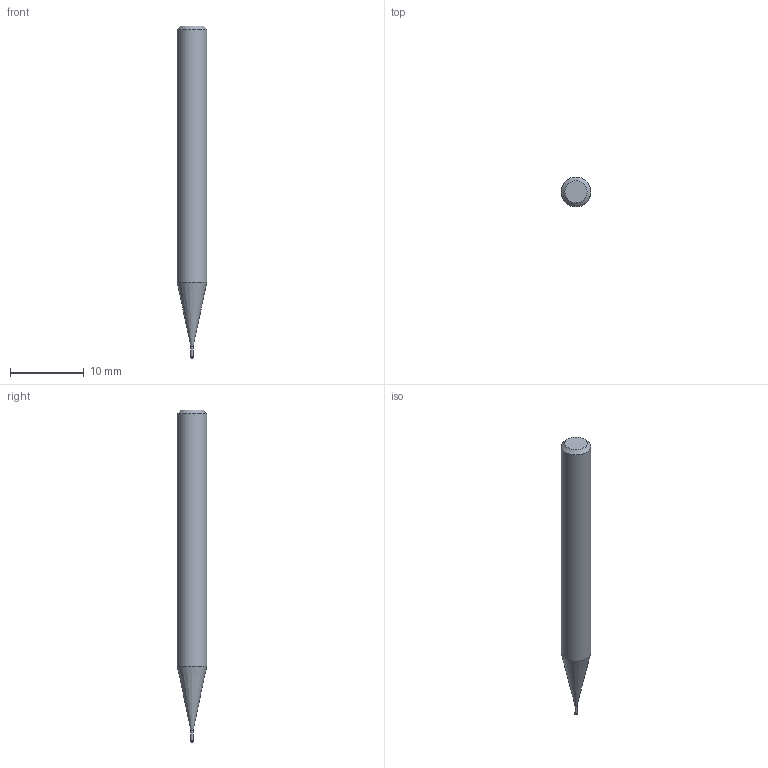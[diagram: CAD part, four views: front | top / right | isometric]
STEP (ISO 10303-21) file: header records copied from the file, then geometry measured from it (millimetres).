
FILE_DESCRIPTION((''),'2;1');
FILE_NAME('C:\Users\nsx150\AppData\Local\Temp\Mastercam 2021\3SYKECWX22\TEMP.step','2021-04-22T09:36:15',(''),(''),'STEP Write','Mastercam 2021 ... CNC Software, Inc.','');
FILE_SCHEMA(('AUTOMOTIVE_DESIGN'));
Length unit declared in the file: millimetre
Products named in the file (1): None
Bounding box: 4 x 4 x 45 mm (x, y, z)
Volume: 474.7 mm3; surface area: 506.9 mm2
Topology: 2 solids, 2 shells, 10 faces, 14 edges, 8 vertices
Faces by surface type: plane 4, cylinder 3, cone 2, torus 1
Full cylindrical faces by diameter (mm): 0.28 x1, 0.3 x1, 4 x1
Entity records: 232 total; most frequent: DIRECTION 40, CARTESIAN_POINT 28, AXIS2_PLACEMENT_3D 20, ORIENTED_EDGE 16, EDGE_LOOP 16, STYLED_ITEM 13, ADVANCED_FACE 10, FACE_BOUND 10
